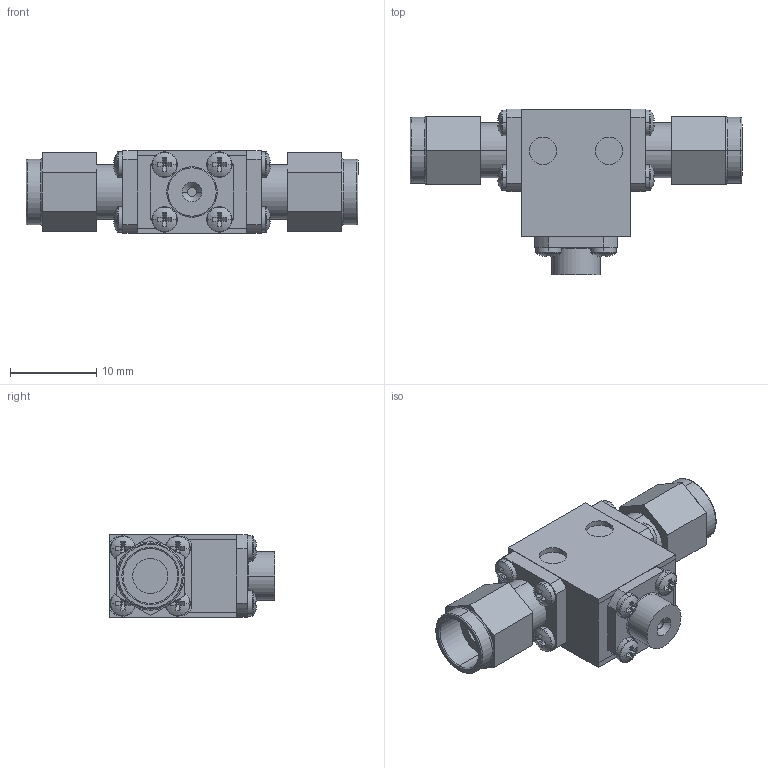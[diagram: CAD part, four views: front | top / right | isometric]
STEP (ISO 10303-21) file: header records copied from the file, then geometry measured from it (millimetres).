
FILE_DESCRIPTION (( 'STEP AP214' ), '1' );
FILE_NAME ('Package 11 Iso MM.step', '2021-12-01T20:57:04', ( '' ), ( '' ), 'SwSTEP 2.0', 'SolidWorks 2016', '' );
FILE_SCHEMA (( 'AUTOMOTIVE_DESIGN' ));
Length unit declared in the file: inch
Products named in the file (6): 0.375 flange; Package 11; pan cross head_ai_CR-PHMS 0.06-80x0.125x0.125-N; Package Size 11; Package 11 Iso MM; Delta SMA-Male 0.375 flagne
Assembly tree (17 placements, depth 2):
  Package 11 Iso MM
    Package Size 11
    Package 11
    pan cross head_ai_CR-PHMS 0.06-80x0.125x0.125-N  x12
    Delta SMA-Male 0.375 flagne  x2
    0.375 flange
Bounding box: 38.46 x 19.18 x 9.65 mm (x, y, z)
Volume: 2926.1 mm3; surface area: 4027 mm2
Topology: 17 solids, 17 shells, 426 faces, 968 edges, 596 vertices
Faces by surface type: plane 246, cylinder 114, torus 38, sphere 24, cone 4
Entity records: 4136 total; most frequent: DIRECTION 746, CARTESIAN_POINT 644, ORIENTED_EDGE 608, EDGE_CURVE 304, AXIS2_PLACEMENT_3D 296, VERTEX_POINT 194, EDGE_LOOP 160, LINE 154
